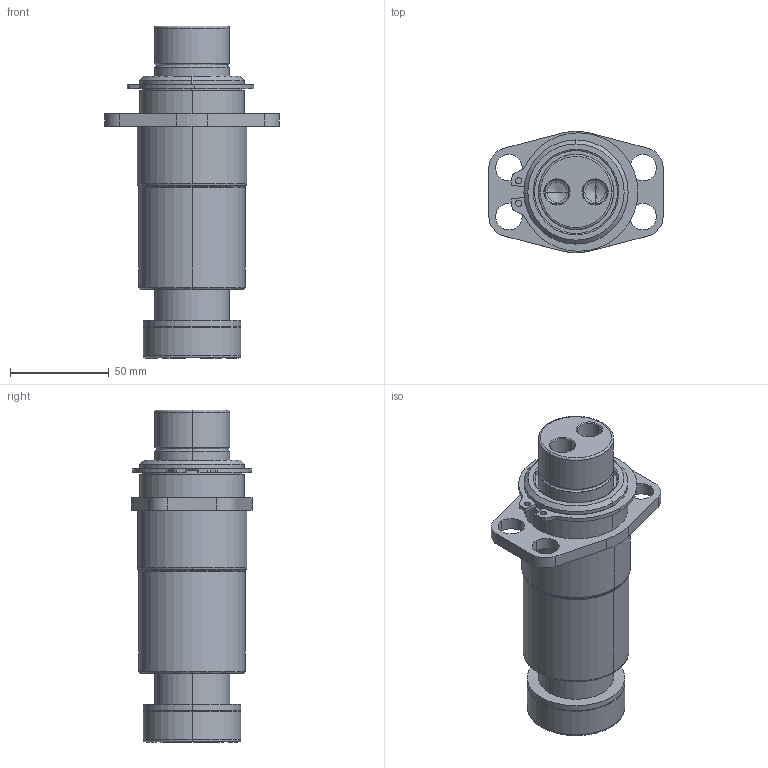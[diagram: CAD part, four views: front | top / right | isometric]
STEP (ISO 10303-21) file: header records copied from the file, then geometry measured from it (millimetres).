
FILE_DESCRIPTION (( 'STEP AP214' ), '1' );
FILE_NAME ('GK152-N4-1-TB-M-XXX.STEP', '2020-09-21T19:39:49', ( '' ), ( '' ), 'SwSTEP 2.0', 'SolidWorks 2017', '' );
FILE_SCHEMA (( 'AUTOMOTIVE_DESIGN' ));
Length unit declared in the file: inch
Products named in the file (7): RetainingRing; GK152-M-XXX-GuidePin; GK152-N4-1-TB-M-XXX; GK1.50-N4-1-TB-Base; GK152-DampeningWasher
Assembly tree (6 placements, depth 3):
  GK152-N4-1-TB-M-XXX
    GK1.50-N4-1-TB-Base
      GK1.50-N4-1-TB-Base
      RetainingRing
    GK152-M-XXX-GuidePin
      GK152-M-XXX-GuidePin
      GK152-DampeningWasher
Bounding box: 88.34 x 61.36 x 168.28 mm (x, y, z)
Volume: 329609.1 mm3; surface area: 71592.4 mm2
Topology: 4 solids, 4 shells, 133 faces, 311 edges, 190 vertices
Faces by surface type: cylinder 65, plane 26, cone 22, bspline 20
Entity records: 4830 total; most frequent: CARTESIAN_POINT 1281, DIRECTION 719, ORIENTED_EDGE 614, EDGE_CURVE 307, AXIS2_PLACEMENT_3D 298, VERTEX_POINT 190, CIRCLE 174, EDGE_LOOP 157
